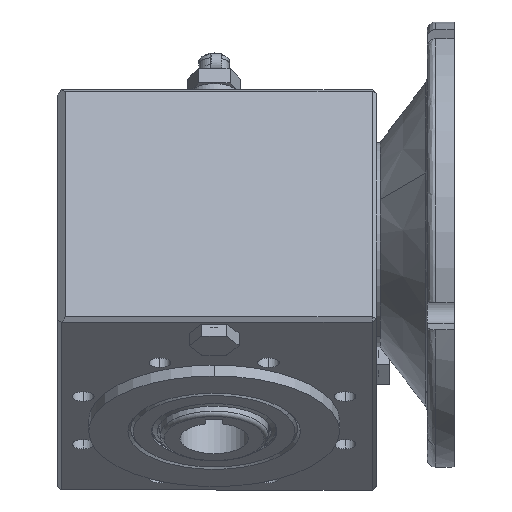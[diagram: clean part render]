
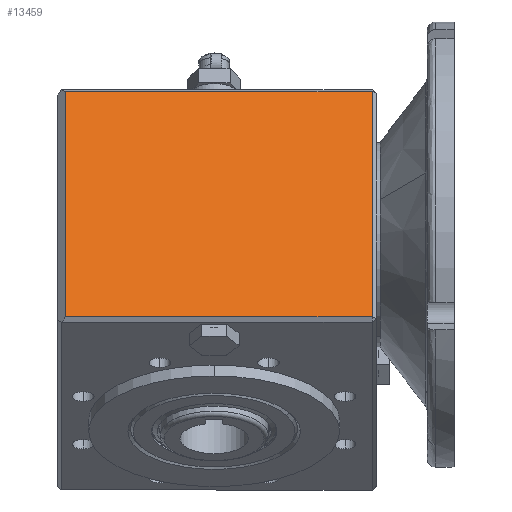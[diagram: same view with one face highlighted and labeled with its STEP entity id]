
A CAD part, front view. The second image highlights one B-rep face of the part: STEP entity #13459.
In plain terms, the highlighted planar face has unit normal (0, -0.898, 0.441) as drawn and (0, 0, 1) by its records, which use the part's own axes.
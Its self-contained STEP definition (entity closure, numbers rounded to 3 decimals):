
#1222 = FACE_OUTER_BOUND ( 'NONE', #11121, .T. ) ;
#1809 = CARTESIAN_POINT ( 'NONE',  ( -58., 46.5, 84. ) ) ;
#2259 = DIRECTION ( 'NONE',  ( 0., 0., 1. ) ) ;
#2421 = VECTOR ( 'NONE', #3573, 1000. ) ;
#2429 = VECTOR ( 'NONE', #21895, 1000. ) ;
#3302 = ORIENTED_EDGE ( 'NONE', *, *, #18148, .T. ) ;
#3573 = DIRECTION ( 'NONE',  ( -1., 0., 0. ) ) ;
#4579 = LINE ( 'NONE', #20130, #2429 ) ;
#5054 = CARTESIAN_POINT ( 'NONE',  ( 58.5, -46.5, 84. ) ) ;
#6526 = EDGE_CURVE ( 'NONE', #14937, #13955, #15484, .T. ) ;
#6829 = CARTESIAN_POINT ( 'NONE',  ( -58., -40.5, 84. ) ) ;
#7099 = ORIENTED_EDGE ( 'NONE', *, *, #6526, .T. ) ;
#8896 = AXIS2_PLACEMENT_3D ( 'NONE', #6829, #2259, #20421 ) ;
#9739 = CARTESIAN_POINT ( 'NONE',  ( -55., 46.5, 84. ) ) ;
#9792 = CARTESIAN_POINT ( 'NONE',  ( -55., -46.5, 84. ) ) ;
#9938 = PLANE ( 'NONE',  #8896 ) ;
#11114 = EDGE_CURVE ( 'NONE', #21580, #14937, #4579, .T. ) ;
#11121 = EDGE_LOOP ( 'NONE', ( #19670, #3302, #22634, #7099 ) ) ;
#12068 = EDGE_CURVE ( 'NONE', #13955, #15070, #22339, .T. ) ;
#12824 = DIRECTION ( 'NONE',  ( 0., 1., 0. ) ) ;
#13022 = VECTOR ( 'NONE', #17848, 1000. ) ;
#13095 = LINE ( 'NONE', #1809, #2421 ) ;
#13459 = ADVANCED_FACE ( 'NONE', ( #1222 ), #9938, .T. ) ;
#13772 = CARTESIAN_POINT ( 'NONE',  ( 58.5, 46.5, 84. ) ) ;
#13955 = VERTEX_POINT ( 'NONE', #5054 ) ;
#14643 = CARTESIAN_POINT ( 'NONE',  ( 58.5, -40.5, 84. ) ) ;
#14937 = VERTEX_POINT ( 'NONE', #9792 ) ;
#15070 = VERTEX_POINT ( 'NONE', #13772 ) ;
#15484 = LINE ( 'NONE', #19582, #13022 ) ;
#17848 = DIRECTION ( 'NONE',  ( 1., 0., 0. ) ) ;
#18148 = EDGE_CURVE ( 'NONE', #15070, #21580, #13095, .T. ) ;
#19582 = CARTESIAN_POINT ( 'NONE',  ( -58., -46.5, 84. ) ) ;
#19670 = ORIENTED_EDGE ( 'NONE', *, *, #12068, .T. ) ;
#20130 = CARTESIAN_POINT ( 'NONE',  ( -55., -40.5, 84. ) ) ;
#20421 = DIRECTION ( 'NONE',  ( 1., 0., 0. ) ) ;
#21514 = VECTOR ( 'NONE', #12824, 1000. ) ;
#21580 = VERTEX_POINT ( 'NONE', #9739 ) ;
#21895 = DIRECTION ( 'NONE',  ( 0., -1., 0. ) ) ;
#22339 = LINE ( 'NONE', #14643, #21514 ) ;
#22634 = ORIENTED_EDGE ( 'NONE', *, *, #11114, .T. ) ;
